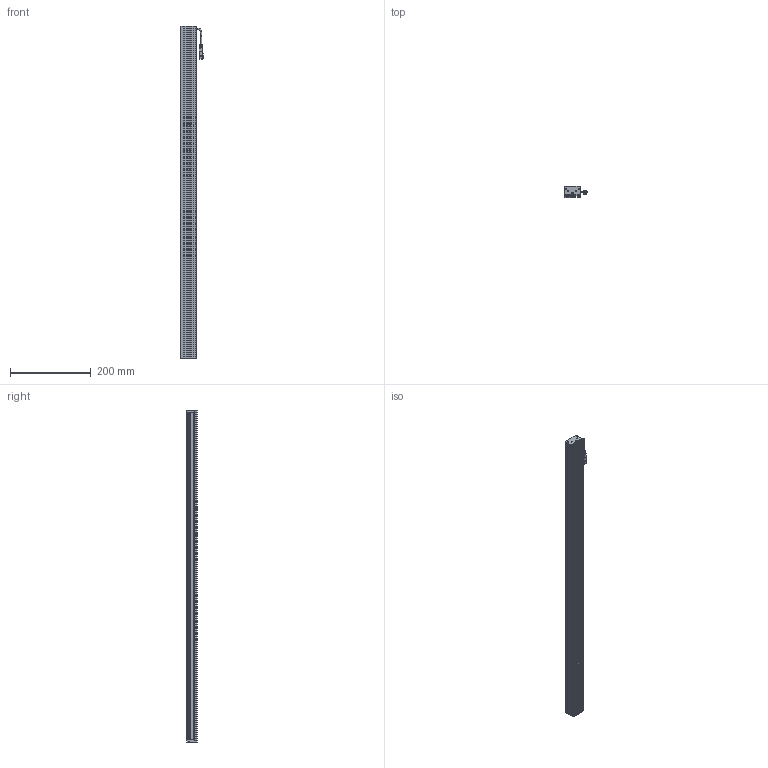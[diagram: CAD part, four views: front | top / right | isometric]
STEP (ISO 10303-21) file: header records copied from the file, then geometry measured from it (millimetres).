
FILE_DESCRIPTION (( 'STEP AP203' ), '1' );
FILE_NAME ('CK-BL82238.STEP', '2026-01-29T07:28:33', ( '' ), ( '' ), 'SwSTEP 2.0', 'SolidWorks 2022', '' );
FILE_SCHEMA (( 'CONFIG_CONTROL_DESIGN' ));
Length unit declared in the file: millimetre
Products named in the file (6): 十字沉头螺丝 M2x10; CK-BL82238; 光源线; CK-BL82238-003A; CK82238-001A; CK-BL82238-002A
Assembly tree (11 placements, depth 2):
  CK-BL82238
    CK82238-001A
    CK-BL82238-002A  x2
    CK-BL82238-003A
    光源线
    十字沉头螺丝 M2x10  x6
Bounding box: 55.84 x 27 x 822 mm (x, y, z)
Volume: 332232.5 mm3; surface area: 286306.2 mm2
Topology: 13 solids, 13 shells, 641 faces, 1692 edges, 1082 vertices
Faces by surface type: plane 353, cylinder 210, cone 46, bspline 32
Entity records: 16373 total; most frequent: CARTESIAN_POINT 3399, ORIENTED_EDGE 2598, DIRECTION 2515, EDGE_CURVE 1299, VECTOR 875, LINE 875, VERTEX_POINT 846, AXIS2_PLACEMENT_3D 820
